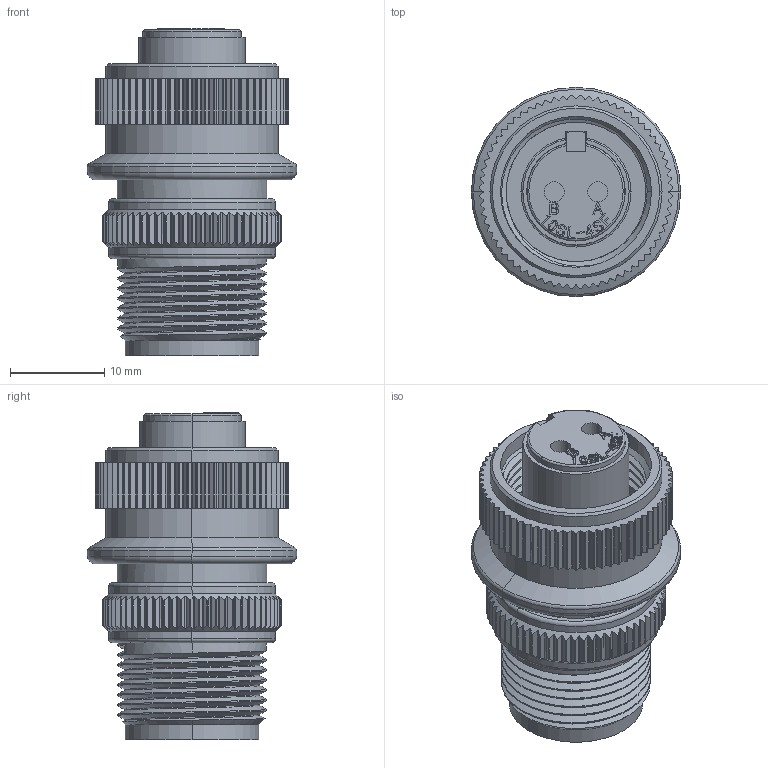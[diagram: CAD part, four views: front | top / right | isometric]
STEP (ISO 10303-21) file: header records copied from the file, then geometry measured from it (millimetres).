
FILE_DESCRIPTION (( 'STEP AP203' ), '1' );
FILE_NAME ('D_MS3106A10SL-4S.STEP', '2017-02-15T03:57:25', ( '' ), ( '' ), 'SwSTEP 2.0', 'SolidWorks 2015', '' );
FILE_SCHEMA (( 'CONFIG_CONTROL_DESIGN' ));
Products named in the file (1): D_MS3106A10SL-4S
Bounding box: 22.17 x 22.17 x 34.74 mm (x, y, z)
Volume: 5541.8 mm3; surface area: 6832.5 mm2
Topology: 1 solids, 1 shells, 1349 faces, 3857 edges, 2555 vertices
Faces by surface type: cylinder 627, plane 486, bspline 193, cone 25, torus 18
Entity records: 54687 total; most frequent: CARTESIAN_POINT 21414, ORIENTED_EDGE 7714, DIRECTION 5909, EDGE_CURVE 3857, VERTEX_POINT 2555, AXIS2_PLACEMENT_3D 2024, VECTOR 1861, LINE 1861
